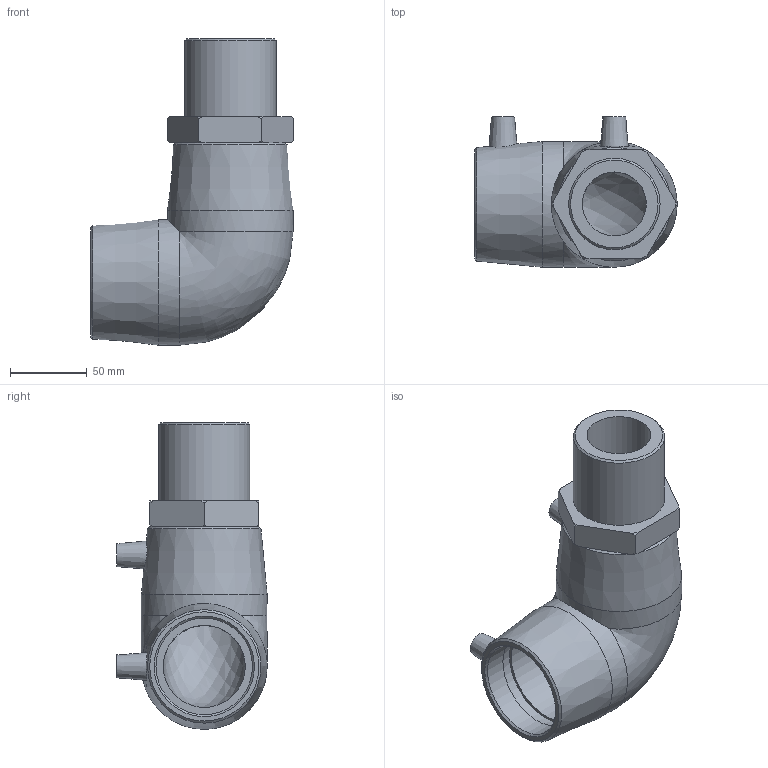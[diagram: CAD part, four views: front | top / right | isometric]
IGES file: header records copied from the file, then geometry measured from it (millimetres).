
Global section: file name: 492504063020N.ipt; native system: Autodesk Inventor 2015; preprocessor: unknown; author: KIM; date: 20200202.122354; units: millimetre
Bounding box: 132 x 98 x 200 mm (x, y, z)
Volume: 570524.3 mm3; surface area: 108173.2 mm2
Topology: 1 solids, 2 shells, 59 faces, 143 edges, 96 vertices
Faces by surface type: plane 22, cone 19, revolution 10, cylinder 7, bspline 1
Full cylindrical faces by diameter (mm): 4 x2, 59.614 x1, 63 x2, 82 x2
